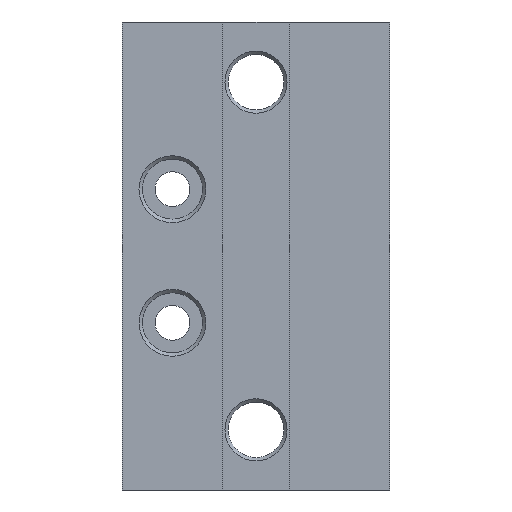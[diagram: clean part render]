
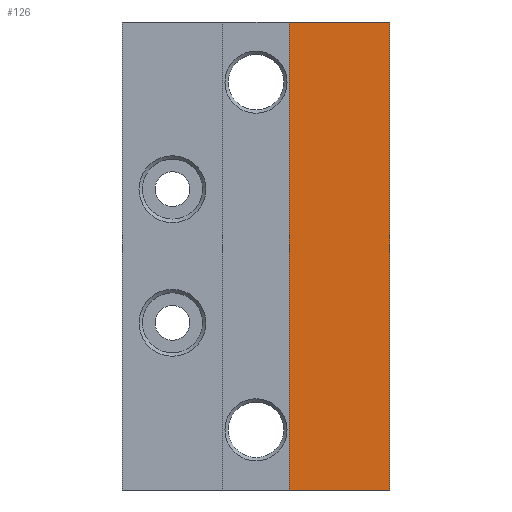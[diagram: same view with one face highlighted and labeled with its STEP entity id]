
A CAD part, front view. The second image highlights one B-rep face of the part: STEP entity #126.
In plain terms, the highlighted planar face has unit normal (0, -1, 0).
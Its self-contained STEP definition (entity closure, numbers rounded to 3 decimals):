
#118=FACE_OUTER_BOUND('',#257,.T.);
#126=ADVANCED_FACE('',(#118),#152,.T.);
#152=PLANE('',#496);
#166=LINE('',#670,#190);
#173=LINE('',#684,#197);
#174=LINE('',#686,#198);
#175=LINE('',#688,#199);
#190=VECTOR('',#550,1.);
#197=VECTOR('',#559,1.);
#198=VECTOR('',#560,1.);
#199=VECTOR('',#561,1.);
#257=EDGE_LOOP('',(#317,#318,#319,#320));
#317=ORIENTED_EDGE('',*,*,#440,.F.);
#318=ORIENTED_EDGE('',*,*,#441,.T.);
#319=ORIENTED_EDGE('',*,*,#442,.T.);
#320=ORIENTED_EDGE('',*,*,#433,.T.);
#397=VERTEX_POINT('',#671);
#398=VERTEX_POINT('',#672);
#403=VERTEX_POINT('',#685);
#404=VERTEX_POINT('',#687);
#433=EDGE_CURVE('',#397,#398,#166,.T.);
#440=EDGE_CURVE('',#403,#398,#173,.T.);
#441=EDGE_CURVE('',#403,#404,#174,.T.);
#442=EDGE_CURVE('',#404,#397,#175,.T.);
#496=AXIS2_PLACEMENT_3D('',#689,#562,#563);
#550=DIRECTION('',(-1.,0.,0.));
#559=DIRECTION('',(0.,0.,1.));
#560=DIRECTION('',(1.,0.,0.));
#561=DIRECTION('',(0.,0.,1.));
#562=DIRECTION('',(0.,-1.,0.));
#563=DIRECTION('',(0.,0.,-1.));
#670=CARTESIAN_POINT('',(20.,-1.5,75.));
#671=CARTESIAN_POINT('',(40.,-1.5,75.));
#672=CARTESIAN_POINT('',(24.95,-1.5,75.));
#684=CARTESIAN_POINT('',(24.95,-1.5,5.));
#685=CARTESIAN_POINT('',(24.95,-1.5,5.));
#686=CARTESIAN_POINT('',(20.,-1.5,5.));
#687=CARTESIAN_POINT('',(40.,-1.5,5.));
#688=CARTESIAN_POINT('',(40.,-1.5,5.));
#689=CARTESIAN_POINT('',(20.,-1.5,5.));
